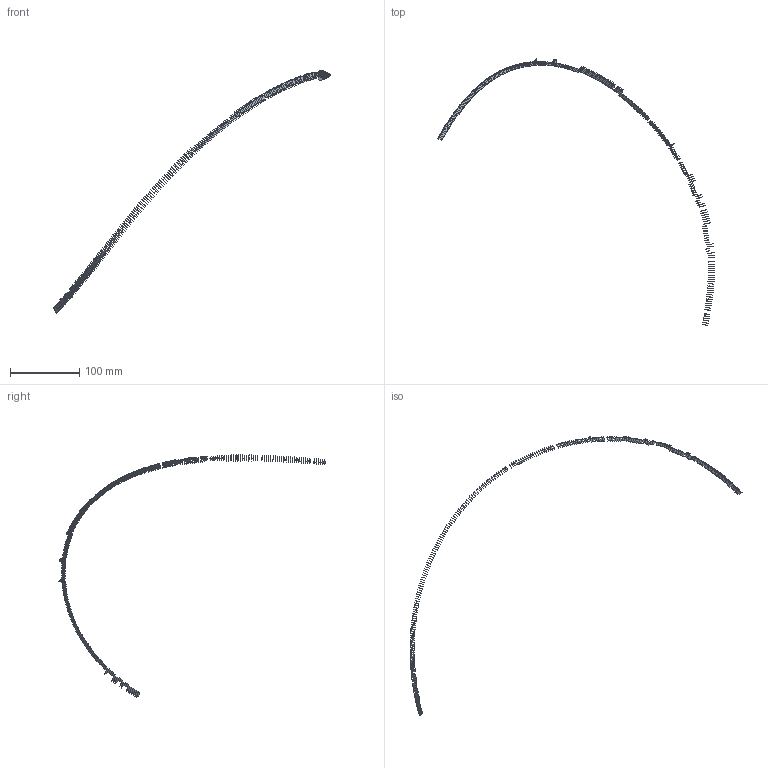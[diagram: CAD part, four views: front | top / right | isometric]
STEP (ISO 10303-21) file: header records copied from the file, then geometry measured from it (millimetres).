
FILE_DESCRIPTION(('FreeCAD Model'),'2;1');
FILE_NAME('Open CASCADE Shape Model','2022-05-22T07:50:31',('FreeCAD'),( 'FreeCAD'),'Open CASCADE STEP processor 7.5','FreeCAD','Unknown');
FILE_SCHEMA(('AUTOMOTIVE_DESIGN { 1 0 10303 214 1 1 1 1 }'));
Length unit declared in the file: millimetre
Products named in the file (252): Open CASCADE STEP translator 7.5 4; Open CASCADE STEP translator 7.5 4.1; Open CASCADE STEP translator 7.5 4.2; Open CASCADE STEP translator 7.5 4.3; Open CASCADE STEP translator 7.5 4.4; Open CASCADE STEP translator 7.5 4.5; Open CASCADE STEP translator 7.5 4.6; Open CASCADE STEP translator 7.5 4.7; Open CASCADE STEP translator 7.5 4.8; Open CASCADE STEP translator 7.5 4.9; Open CASCADE STEP translator 7.5 4.10; Open CASCADE STEP translator 7.5 4.11; Open CASCADE STEP translator 7.5 4.12; Open CASCADE STEP translator 7.5 4.13; Open CASCADE STEP translator 7.5 4.14; Open CASCADE STEP translator 7.5 4.15; Open CASCADE STEP translator 7.5 4.16; Open CASCADE STEP translator 7.5 4.17; Open CASCADE STEP translator 7.5 4.18; Open CASCADE STEP translator 7.5 4.19; Open CASCADE STEP translator 7.5 4.20; Open CASCADE STEP translator 7.5 4.21; Open CASCADE STEP translator 7.5 4.22; Open CASCADE STEP translator 7.5 4.23; Open CASCADE STEP translator 7.5 4.24; Open CASCADE STEP translator 7.5 4.25; Open CASCADE STEP translator 7.5 4.26; Open CASCADE STEP translator 7.5 4.27; Open CASCADE STEP translator 7.5 4.28; Open CASCADE STEP translator 7.5 4.29; Open CASCADE STEP translator 7.5 4.30; Open CASCADE STEP translator 7.5 4.31; Open CASCADE STEP translator 7.5 4.32; Open CASCADE STEP translator 7.5 4.33; Open CASCADE STEP translator 7.5 4.34; Open CASCADE STEP translator 7.5 4.35; Open CASCADE STEP translator 7.5 4.36; Open CASCADE STEP translator 7.5 4.37; Open CASCADE STEP translator 7.5 4.38; Open CASCADE STEP translator 7.5 4.39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
Assembly tree (251 placements, depth 2):
  Open CASCADE STEP translator 7.5 4
    Open CASCADE STEP translator 7.5 4.1
    Open CASCADE STEP translator 7.5 4.2
    Open CASCADE STEP translator 7.5 4.3
    Open CASCADE STEP translator 7.5 4.4
    Open CASCADE STEP translator 7.5 4.5
    Open CASCADE STEP translator 7.5 4.6
    Open CASCADE STEP translator 7.5 4.7
    Open CASCADE STEP translator 7.5 4.8
    Open CASCADE STEP translator 7.5 4.9
    Open CASCADE STEP translator 7.5 4.10
    Open CASCADE STEP translator 7.5 4.11
    Open CASCADE STEP translator 7.5 4.12
    Open CASCADE STEP translator 7.5 4.13
    Open CASCADE STEP translator 7.5 4.14
    Open CASCADE STEP translator 7.5 4.15
    Open CASCADE STEP translator 7.5 4.16
    Open CASCADE STEP translator 7.5 4.17
    Open CASCADE STEP translator 7.5 4.18
    Open CASCADE STEP translator 7.5 4.19
    Open CASCADE STEP translator 7.5 4.20
    Open CASCADE STEP translator 7.5 4.21
    Open CASCADE STEP translator 7.5 4.22
    Open CASCADE STEP translator 7.5 4.23
    Open CASCADE STEP translator 7.5 4.24
    Open CASCADE STEP translator 7.5 4.25
    Open CASCADE STEP translator 7.5 4.26
    Open CASCADE STEP translator 7.5 4.27
    Open CASCADE STEP translator 7.5 4.28
    Open CASCADE STEP translator 7.5 4.29
    Open CASCADE STEP translator 7.5 4.30
    Open CASCADE STEP translator 7.5 4.31
    Open CASCADE STEP translator 7.5 4.32
    Open CASCADE STEP translator 7.5 4.33
    Open CASCADE STEP translator 7.5 4.34
    Open CASCADE STEP translator 7.5 4.35
    Open CASCADE STEP translator 7.5 4.36
    Open CASCADE STEP translator 7.5 4.37
    Open CASCADE STEP translator 7.5 4.38
    Open CASCADE STEP translator 7.5 4.39
    Open CASCADE STEP translator 7.5 4.40
    Open CASCADE STEP translator 7.5 4.41
    Open CASCADE STEP translator 7.5 4.42
    Open CASCADE STEP translator 7.5 4.43
    Open CASCADE STEP translator 7.5 4.44
    Open CASCADE STEP translator 7.5 4.45
    Open CASCADE STEP translator 7.5 4.46
    Open CASCADE STEP translator 7.5 4.47
    Open CASCADE STEP translator 7.5 4.48
    Open CASCADE STEP translator 7.5 4.49
    Open CASCADE STEP translator 7.5 4.50
    Open CASCADE STEP translator 7.5 4.51
    Open CASCADE STEP translator 7.5 4.52
    Open CASCADE STEP translator 7.5 4.53
    Open CASCADE STEP translator 7.5 4.54
    Open CASCADE STEP translator 7.5 4.55
    Open CASCADE STEP translator 7.5 4.56
    Open CASCADE STEP translator 7.5 4.57
    Open CASCADE STEP translator 7.5 4.58
    Open CASCADE STEP translator 7.5 4.59
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Bounding box: 401.25 x 386.51 x 351.94 mm (x, y, z)
Surface area: 8321 mm2 (no closed solid volume)
Topology: 0 solids, 251 shells, 251 faces, 4246 edges, 4246 vertices
Faces by surface type: bspline 251
Entity records: 62242 total; most frequent: CARTESIAN_POINT 22486, B_SPLINE_CURVE_WITH_KNOTS 8492, ORIENTED_EDGE 4246, EDGE_CURVE 4246, VERTEX_POINT 4246, SURFACE_CURVE 4246, PCURVE 4246, DEFINITIONAL_REPRESENTATION 4246
